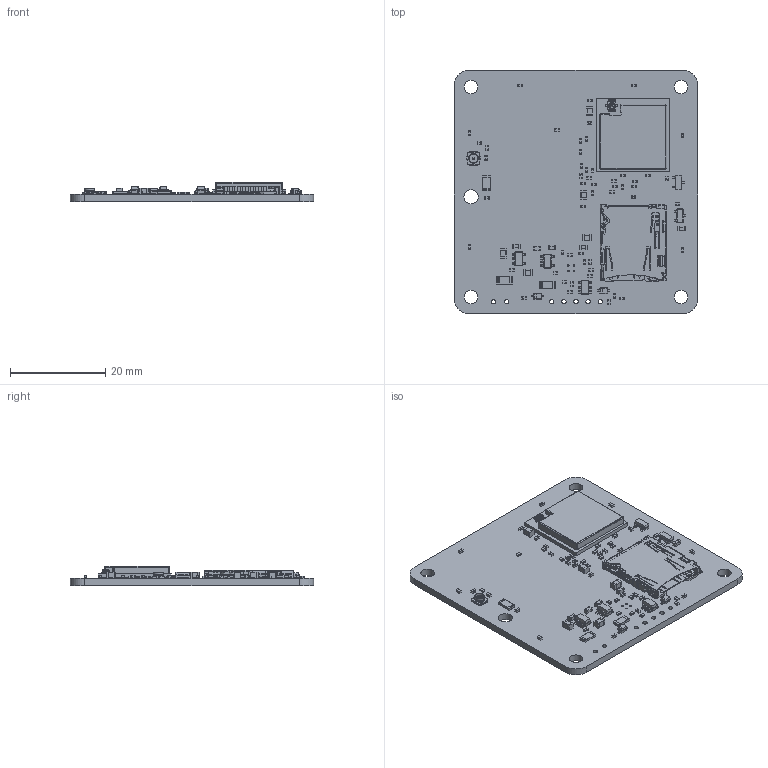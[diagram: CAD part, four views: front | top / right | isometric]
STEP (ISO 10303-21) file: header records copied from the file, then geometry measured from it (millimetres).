
FILE_DESCRIPTION(('KiCad electronic assembly'),'2;1');
FILE_NAME('AVO_BACK_V5_PCB_FINAL_STEP.step','2026-11-14T16:32:23',( 'Pcbnew'),('Kicad'),'Open CASCADE STEP processor 7.6', 'KiCad to STEP converter','Unknown');
FILE_SCHEMA(('AUTOMOTIVE_DESIGN { 1 0 10303 214 1 1 1 1 }'));
Length unit declared in the file: millimetre
Products named in the file (44): AVO_BACK_V5_PCB_FINAL_STEP 1; C_0402_1005Metric; Fuse_1206_3216Metric; C_0603_1608Metric; U.FL_Hirose_U.FL-R-SMT-1_Vertical; R_0402_1005Metric; SOT-23-5; R_1206_3216Metric; microSD_HC_Hirose_DM3AT-SF-PEJM5; C_0805_2012Metric; D_SOD-323; SOT-23; SOT-23-6; ESP32-S3-MINI-1U; DesignRootModel; uid__2482; Submodel-R0201_part_R0201; Submodel-D__3D_design_ESP32-S3_module_module_ESP32-S3-MINI-1U-3D_PCB_
ESP32-S3-MINI-1U_V1.1_20210824_PCB_3D_ImportedPartModels_R0201_
20210301.STEP; R0201_20210301.xtd; Submodel-L0201_part_L0201; Submodel-D__3D_design_ESP32-S3_module_module_ESP32-S3-MINI-1U-3D_PCB_
ESP32-S3-MINI-1U_V1.1_20210824_PCB_3D_ImportedPartModels_L0201_
20210301.STEP; L0201_20210301.xtd; Submodel-C0201_part_C0201; Submodel-D__3D_design_ESP32-S3_module_module_ESP32-S3-MINI-1U-3D_PCB_
ESP32-S3-MINI-1U_V1.1_20210824_PCB_3D_ImportedPartModels_C0201_
20210301.STEP; C0201_20210301.xtd; Submodel-C0402_part_C0402; Submodel-D__3D_design_ESP32-S3_module_module_ESP32-S3-MINI-1U-3D_PCB_
ESP32-S3-MINI-1U_V1.1_20210824_PCB_3D_ImportedPartModels_C0402_
20210301.STEP; C0402_20210301.xtd; Submodel-SOD882_part_SOD882; Submodel-D__3D_design_ESP32-S3_module_module_ESP32-S3-MINI-1U-3D_PCB_
ESP32-S3-MINI-1U_V1.1_20210824_PCB_3D_ImportedPartModels_DFN1006.STEP; DFN1006.xtd; Submodel-XTAL3225_part_XTAL3225; Submodel-D__3D_design_ESP32-S3_module_module_ESP32-S3-MINI-1U-3D_PCB_
ESP32-S3-MINI-1U_V1.1_20210824_PCB_3D_ImportedPartModels_XTAL3225_
20210301.STEP; XTAL3225_20210301.xtd; Submodel-IPEX_4P_part_IPEX_4P; Submodel-D__3D_design_ESP32-S3_module_module_ESP32-S3-MINI-1U-3D_PCB_
ESP32-S3-MINI-1U_V1.1_20210824_PCB_3D_ImportedPartModels_ipx3.STEP; ipx3.xtd; Submodel-QFN56_0P4_7_part_QFN56_0P4_7; Submodel-D__3D_design_ESP32-S3_module_module_ESP32-S3-MINI-1U-3D_PCB_
ESP32-S3-MINI-1U_V1.1_20210824_PCB_3D_ImportedPartModels_ESP32-S3_
20210301.STEP; ESP32-S3_20210301.xtd ...
Assembly tree (119 placements, depth 6):
  AVO_BACK_V5_PCB_FINAL_STEP 1
    C_0402_1005Metric  x20
    Fuse_1206_3216Metric  x2
    C_0603_1608Metric  x5
    U.FL_Hirose_U.FL-R-SMT-1_Vertical
    R_0402_1005Metric  x31
    SOT-23-5  x2
    R_1206_3216Metric
    microSD_HC_Hirose_DM3AT-SF-PEJM5
    C_0805_2012Metric  x5
    D_SOD-323  x2
    SOT-23  x2
    SOT-23-6
    ESP32-S3-MINI-1U
      DesignRootModel
        uid__2482
        Submodel-R0201_part_R0201  x3
          Submodel-D__3D_design_ESP32-S3_module_module_ESP32-S3-MINI-1U-3D_PCB_
ESP32-S3-MINI-1U_V1.1_20210824_PCB_3D_ImportedPartModels_R0201_
20210301.STEP
            R0201_20210301.xtd
        Submodel-L0201_part_L0201  x2
          Submodel-D__3D_design_ESP32-S3_module_module_ESP32-S3-MINI-1U-3D_PCB_
ESP32-S3-MINI-1U_V1.1_20210824_PCB_3D_ImportedPartModels_L0201_
20210301.STEP
            L0201_20210301.xtd
        Submodel-C0201_part_C0201  x13
          Submodel-D__3D_design_ESP32-S3_module_module_ESP32-S3-MINI-1U-3D_PCB_
ESP32-S3-MINI-1U_V1.1_20210824_PCB_3D_ImportedPartModels_C0201_
20210301.STEP
            C0201_20210301.xtd
        Submodel-C0402_part_C0402
          Submodel-D__3D_design_ESP32-S3_module_module_ESP32-S3-MINI-1U-3D_PCB_
ESP32-S3-MINI-1U_V1.1_20210824_PCB_3D_ImportedPartModels_C0402_
20210301.STEP
            C0402_20210301.xtd
        Submodel-SOD882_part_SOD882
          Submodel-D__3D_design_ESP32-S3_module_module_ESP32-S3-MINI-1U-3D_PCB_
ESP32-S3-MINI-1U_V1.1_20210824_PCB_3D_ImportedPartModels_DFN1006.STEP
            DFN1006.xtd
        Submodel-XTAL3225_part_XTAL3225
          Submodel-D__3D_design_ESP32-S3_module_module_ESP32-S3-MINI-1U-3D_PCB_
ESP32-S3-MINI-1U_V1.1_20210824_PCB_3D_ImportedPartModels_XTAL3225_
20210301.STEP
            XTAL3225_20210301.xtd
        Submodel-IPEX_4P_part_IPEX_4P
          Submodel-D__3D_design_ESP32-S3_module_module_ESP32-S3-MINI-1U-3D_PCB_
ESP32-S3-MINI-1U_V1.1_20210824_PCB_3D_ImportedPartModels_ipx3.STEP
            ipx3.xtd
        Submodel-QFN56_0P4_7_part_QFN56_0P4_7
          Submodel-D__3D_design_ESP32-S3_module_module_ESP32-S3-MINI-1U-3D_PCB_
ESP32-S3-MINI-1U_V1.1_20210824_PCB_3D_ImportedPartModels_ESP32-S3_
20210301.STEP
            ESP32-S3_20210301.xtd
      Imported
      Shield Box_ESP32-S3-MINI-1U_20200714
    L_0402_1005Metric
    AVO_BACK_V5_PCB_PCB
Bounding box: 51 x 51 x 4.06 mm (x, y, z)
Volume: 4356.3 mm3; surface area: 8374.3 mm2
Topology: 297 solids, 298 shells, 6210 faces, 15466 edges, 9807 vertices
Faces by surface type: plane 4304, cylinder 1505, bspline 388, cone 12, sphere 1
Full cylindrical faces by diameter (mm): 0.3 x4, 0.4 x1, 0.9 x7, 1.8 x1, 1.92 x1, 2 x2, 2.8 x4, 3 x1
Entity records: 114014 total; most frequent: CARTESIAN_POINT 25352, ORIENTED_EDGE 18512, DIRECTION 16923, EDGE_CURVE 9256, LINE 7467, VECTOR 7467, VERTEX_POINT 5939, AXIS2_PLACEMENT_3D 4728
